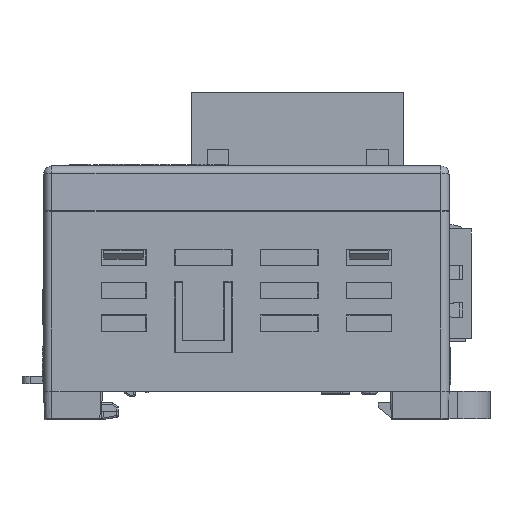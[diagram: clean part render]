
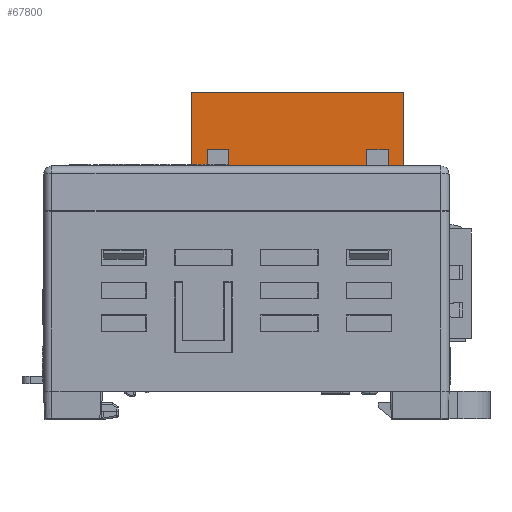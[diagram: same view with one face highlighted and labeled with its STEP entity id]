
A CAD part, left-side view. The second image highlights one B-rep face of the part: STEP entity #67800.
In plain terms, the highlighted planar face has unit normal (-1, 0, 0).
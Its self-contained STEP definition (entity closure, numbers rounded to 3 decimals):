
#93=DIRECTION('',(0.,0.,1.));
#94=VECTOR('',#93,5.);
#95=CARTESIAN_POINT('',(7.53,4.79,28.));
#96=LINE('',#95,#94);
#205=DIRECTION('',(0.,-1.,0.));
#206=VECTOR('',#205,0.9);
#207=CARTESIAN_POINT('',(7.53,-17.31,28.));
#208=LINE('',#207,#206);
#209=DIRECTION('',(0.,-1.,0.));
#210=VECTOR('',#209,2.6);
#211=CARTESIAN_POINT('',(7.53,-14.71,33.));
#212=LINE('',#211,#210);
#213=DIRECTION('',(0.,0.,1.));
#214=VECTOR('',#213,5.);
#215=CARTESIAN_POINT('',(7.53,-14.71,28.));
#216=LINE('',#215,#214);
#217=DIRECTION('',(0.,-1.,0.));
#218=VECTOR('',#217,1.45);
#219=CARTESIAN_POINT('',(7.53,-13.26,28.));
#220=LINE('',#219,#218);
#221=DIRECTION('',(0.,-1.,0.));
#222=VECTOR('',#221,5.5);
#223=CARTESIAN_POINT('',(7.53,-6.76,28.));
#224=LINE('',#223,#222);
#225=DIRECTION('',(0.,-1.,0.));
#226=VECTOR('',#225,5.5);
#227=CARTESIAN_POINT('',(7.53,-0.26,28.));
#228=LINE('',#227,#226);
#229=DIRECTION('',(0.,-1.,0.));
#230=VECTOR('',#229,1.45);
#231=CARTESIAN_POINT('',(7.53,2.19,28.));
#232=LINE('',#231,#230);
#233=DIRECTION('',(0.,-1.,0.));
#234=VECTOR('',#233,0.9);
#235=CARTESIAN_POINT('',(7.53,5.69,28.));
#236=LINE('',#235,#234);
#861=DIRECTION('',(0.,1.,0.));
#862=VECTOR('',#861,1.);
#863=CARTESIAN_POINT('',(7.53,-19.21,27.5));
#864=LINE('',#863,#862);
#877=DIRECTION('',(0.,1.,0.));
#878=VECTOR('',#877,1.);
#879=CARTESIAN_POINT('',(7.53,-13.26,27.5));
#880=LINE('',#879,#878);
#893=DIRECTION('',(0.,1.,0.));
#894=VECTOR('',#893,1.);
#895=CARTESIAN_POINT('',(7.53,-6.76,27.5));
#896=LINE('',#895,#894);
#909=DIRECTION('',(0.,1.,0.));
#910=VECTOR('',#909,1.);
#911=CARTESIAN_POINT('',(7.53,-0.26,27.5));
#912=LINE('',#911,#910);
#925=DIRECTION('',(0.,1.,0.));
#926=VECTOR('',#925,1.);
#927=CARTESIAN_POINT('',(7.53,5.69,27.5));
#928=LINE('',#927,#926);
#43231=DIRECTION('',(0.,0.,-1.));
#43232=VECTOR('',#43231,5.);
#43233=CARTESIAN_POINT('',(7.53,-17.31,33.));
#43234=LINE('',#43233,#43232);
#43343=DIRECTION('',(0.,0.,-1.));
#43344=VECTOR('',#43343,12.5);
#43345=CARTESIAN_POINT('',(7.53,-19.21,40.));
#43346=LINE('',#43345,#43344);
#43475=DIRECTION('',(0.,0.,1.));
#43476=VECTOR('',#43475,12.5);
#43477=CARTESIAN_POINT('',(7.53,6.69,27.5));
#43478=LINE('',#43477,#43476);
#45225=DIRECTION('',(0.,0.,-1.));
#45226=VECTOR('',#45225,0.5);
#45227=CARTESIAN_POINT('',(7.53,5.69,28.));
#45228=LINE('',#45227,#45226);
#45845=DIRECTION('',(0.,0.,-1.));
#45846=VECTOR('',#45845,5.);
#45847=CARTESIAN_POINT('',(7.53,2.19,33.));
#45848=LINE('',#45847,#45846);
#45865=DIRECTION('',(0.,-1.,0.));
#45866=VECTOR('',#45865,2.6);
#45867=CARTESIAN_POINT('',(7.53,4.79,33.));
#45868=LINE('',#45867,#45866);
#47481=DIRECTION('',(0.,-1.,0.));
#47482=VECTOR('',#47481,25.9);
#47483=CARTESIAN_POINT('',(7.53,6.69,40.));
#47484=LINE('',#47483,#47482);
#47593=DIRECTION('',(0.,0.,1.));
#47594=VECTOR('',#47593,0.5);
#47595=CARTESIAN_POINT('',(7.53,-18.21,27.5));
#47596=LINE('',#47595,#47594);
#49825=DIRECTION('',(0.,0.,-1.));
#49826=VECTOR('',#49825,0.5);
#49827=CARTESIAN_POINT('',(7.53,-13.26,28.));
#49828=LINE('',#49827,#49826);
#49849=DIRECTION('',(0.,0.,1.));
#49850=VECTOR('',#49849,0.5);
#49851=CARTESIAN_POINT('',(7.53,-12.26,27.5));
#49852=LINE('',#49851,#49850);
#49853=DIRECTION('',(0.,0.,-1.));
#49854=VECTOR('',#49853,0.5);
#49855=CARTESIAN_POINT('',(7.53,-6.76,28.));
#49856=LINE('',#49855,#49854);
#49877=DIRECTION('',(0.,0.,1.));
#49878=VECTOR('',#49877,0.5);
#49879=CARTESIAN_POINT('',(7.53,-5.76,27.5));
#49880=LINE('',#49879,#49878);
#49881=DIRECTION('',(0.,0.,-1.));
#49882=VECTOR('',#49881,0.5);
#49883=CARTESIAN_POINT('',(7.53,-0.26,28.));
#49884=LINE('',#49883,#49882);
#49905=DIRECTION('',(0.,0.,1.));
#49906=VECTOR('',#49905,0.5);
#49907=CARTESIAN_POINT('',(7.53,0.74,27.5));
#49908=LINE('',#49907,#49906);
#58393=CARTESIAN_POINT('',(7.53,-14.71,28.));
#58395=VERTEX_POINT('',#58393);
#58398=CARTESIAN_POINT('',(7.53,-17.31,28.));
#58399=VERTEX_POINT('',#58398);
#58400=CARTESIAN_POINT('',(7.53,-18.21,28.));
#58401=VERTEX_POINT('',#58400);
#58478=CARTESIAN_POINT('',(7.53,5.69,28.));
#58479=VERTEX_POINT('',#58478);
#58480=CARTESIAN_POINT('',(7.53,4.79,28.));
#58481=VERTEX_POINT('',#58480);
#58486=CARTESIAN_POINT('',(7.53,2.19,28.));
#58487=VERTEX_POINT('',#58486);
#58488=CARTESIAN_POINT('',(7.53,0.74,28.));
#58489=VERTEX_POINT('',#58488);
#58494=CARTESIAN_POINT('',(7.53,-0.26,28.));
#58495=VERTEX_POINT('',#58494);
#58496=CARTESIAN_POINT('',(7.53,-5.76,28.));
#58497=VERTEX_POINT('',#58496);
#58502=CARTESIAN_POINT('',(7.53,-6.76,28.));
#58503=VERTEX_POINT('',#58502);
#58504=CARTESIAN_POINT('',(7.53,-12.26,28.));
#58505=VERTEX_POINT('',#58504);
#58510=CARTESIAN_POINT('',(7.53,-13.26,28.));
#58511=VERTEX_POINT('',#58510);
#59514=CARTESIAN_POINT('',(7.53,-17.31,33.));
#59515=VERTEX_POINT('',#59514);
#59516=CARTESIAN_POINT('',(7.53,-14.71,33.));
#59517=VERTEX_POINT('',#59516);
#59518=CARTESIAN_POINT('',(7.53,2.19,33.));
#59519=VERTEX_POINT('',#59518);
#59520=CARTESIAN_POINT('',(7.53,4.79,33.));
#59521=VERTEX_POINT('',#59520);
#59522=CARTESIAN_POINT('',(7.53,6.69,40.));
#59523=CARTESIAN_POINT('',(7.53,-19.21,40.));
#59524=VERTEX_POINT('',#59522);
#59525=VERTEX_POINT('',#59523);
#66712=CARTESIAN_POINT('',(7.53,-19.21,27.5));
#66713=CARTESIAN_POINT('',(7.53,-18.21,27.5));
#66714=VERTEX_POINT('',#66712);
#66715=VERTEX_POINT('',#66713);
#66716=CARTESIAN_POINT('',(7.53,-13.26,27.5));
#66717=CARTESIAN_POINT('',(7.53,-12.26,27.5));
#66718=VERTEX_POINT('',#66716);
#66719=VERTEX_POINT('',#66717);
#66720=CARTESIAN_POINT('',(7.53,-6.76,27.5));
#66721=CARTESIAN_POINT('',(7.53,-5.76,27.5));
#66722=VERTEX_POINT('',#66720);
#66723=VERTEX_POINT('',#66721);
#66724=CARTESIAN_POINT('',(7.53,-0.26,27.5));
#66725=CARTESIAN_POINT('',(7.53,0.74,27.5));
#66726=VERTEX_POINT('',#66724);
#66727=VERTEX_POINT('',#66725);
#66728=CARTESIAN_POINT('',(7.53,5.69,27.5));
#66729=CARTESIAN_POINT('',(7.53,6.69,27.5));
#66730=VERTEX_POINT('',#66728);
#66731=VERTEX_POINT('',#66729);
#67745=CARTESIAN_POINT('',(7.53,-6.26,33.5));
#67746=DIRECTION('',(1.,0.,0.));
#67747=DIRECTION('',(0.,0.,-1.));
#67748=AXIS2_PLACEMENT_3D('',#67745,#67746,#67747);
#67749=PLANE('',#67748);
#67751=ORIENTED_EDGE('',*,*,#67750,.T.);
#67753=ORIENTED_EDGE('',*,*,#67752,.T.);
#67754=ORIENTED_EDGE('',*,*,#67068,.F.);
#67756=ORIENTED_EDGE('',*,*,#67755,.F.);
#67758=ORIENTED_EDGE('',*,*,#67757,.F.);
#67759=ORIENTED_EDGE('',*,*,#67727,.F.);
#67760=ORIENTED_EDGE('',*,*,#67179,.F.);
#67762=ORIENTED_EDGE('',*,*,#67761,.T.);
#67764=ORIENTED_EDGE('',*,*,#67763,.T.);
#67766=ORIENTED_EDGE('',*,*,#67765,.T.);
#67767=ORIENTED_EDGE('',*,*,#67171,.F.);
#67769=ORIENTED_EDGE('',*,*,#67768,.T.);
#67771=ORIENTED_EDGE('',*,*,#67770,.T.);
#67773=ORIENTED_EDGE('',*,*,#67772,.T.);
#67774=ORIENTED_EDGE('',*,*,#67163,.F.);
#67776=ORIENTED_EDGE('',*,*,#67775,.T.);
#67778=ORIENTED_EDGE('',*,*,#67777,.T.);
#67780=ORIENTED_EDGE('',*,*,#67779,.T.);
#67781=ORIENTED_EDGE('',*,*,#67155,.F.);
#67783=ORIENTED_EDGE('',*,*,#67782,.F.);
#67785=ORIENTED_EDGE('',*,*,#67784,.F.);
#67786=ORIENTED_EDGE('',*,*,#67039,.F.);
#67787=ORIENTED_EDGE('',*,*,#67148,.F.);
#67789=ORIENTED_EDGE('',*,*,#67788,.T.);
#67791=ORIENTED_EDGE('',*,*,#67790,.T.);
#67793=ORIENTED_EDGE('',*,*,#67792,.T.);
#67795=ORIENTED_EDGE('',*,*,#67794,.T.);
#67797=ORIENTED_EDGE('',*,*,#67796,.T.);
#67798=EDGE_LOOP('',(#67751,#67753,#67754,#67756,#67758,#67759,#67760,#67762,
#67764,#67766,#67767,#67769,#67771,#67773,#67774,#67776,#67778,#67780,#67781,
#67783,#67785,#67786,#67787,#67789,#67791,#67793,#67795,#67797));
#67799=FACE_OUTER_BOUND('',#67798,.F.);
#67800=ADVANCED_FACE('',(#67799),#67749,.F.);
#67039=EDGE_CURVE('',#58481,#59521,#96,.T.);
#67068=EDGE_CURVE('',#58399,#58401,#208,.T.);
#67148=EDGE_CURVE('',#58479,#58481,#236,.T.);
#67155=EDGE_CURVE('',#58487,#58489,#232,.T.);
#67163=EDGE_CURVE('',#58495,#58497,#228,.T.);
#67171=EDGE_CURVE('',#58503,#58505,#224,.T.);
#67179=EDGE_CURVE('',#58511,#58395,#220,.T.);
#67727=EDGE_CURVE('',#58395,#59517,#216,.T.);
#67750=EDGE_CURVE('',#66714,#66715,#864,.T.);
#67752=EDGE_CURVE('',#66715,#58401,#47596,.T.);
#67755=EDGE_CURVE('',#59515,#58399,#43234,.T.);
#67757=EDGE_CURVE('',#59517,#59515,#212,.T.);
#67761=EDGE_CURVE('',#58511,#66718,#49828,.T.);
#67763=EDGE_CURVE('',#66718,#66719,#880,.T.);
#67765=EDGE_CURVE('',#66719,#58505,#49852,.T.);
#67768=EDGE_CURVE('',#58503,#66722,#49856,.T.);
#67770=EDGE_CURVE('',#66722,#66723,#896,.T.);
#67772=EDGE_CURVE('',#66723,#58497,#49880,.T.);
#67775=EDGE_CURVE('',#58495,#66726,#49884,.T.);
#67777=EDGE_CURVE('',#66726,#66727,#912,.T.);
#67779=EDGE_CURVE('',#66727,#58489,#49908,.T.);
#67782=EDGE_CURVE('',#59519,#58487,#45848,.T.);
#67784=EDGE_CURVE('',#59521,#59519,#45868,.T.);
#67788=EDGE_CURVE('',#58479,#66730,#45228,.T.);
#67790=EDGE_CURVE('',#66730,#66731,#928,.T.);
#67792=EDGE_CURVE('',#66731,#59524,#43478,.T.);
#67794=EDGE_CURVE('',#59524,#59525,#47484,.T.);
#67796=EDGE_CURVE('',#59525,#66714,#43346,.T.);
